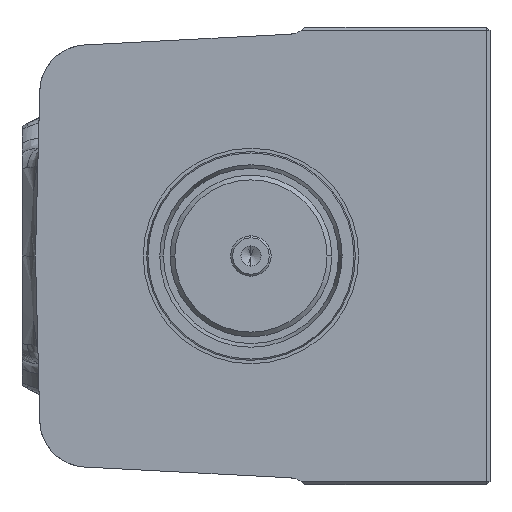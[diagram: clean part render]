
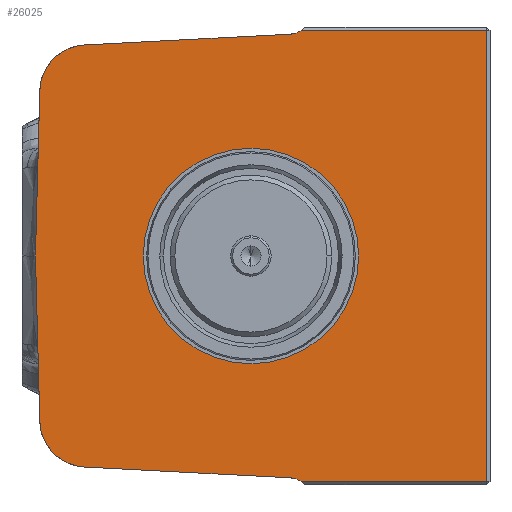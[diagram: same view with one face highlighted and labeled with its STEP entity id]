
A CAD part, left-side view. The second image highlights one B-rep face of the part: STEP entity #26025.
In plain terms, the highlighted planar face has unit normal (-1, 0, 0).
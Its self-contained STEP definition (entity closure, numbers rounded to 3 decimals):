
#375 = DIRECTION ( 'NONE',  ( -1., 0., 0. ) ) ;
#379 = VERTEX_POINT ( 'NONE', #29618 ) ;
#618 = EDGE_CURVE ( 'NONE', #5360, #24153, #23117, .T. ) ;
#737 = CARTESIAN_POINT ( 'NONE',  ( -46.6, 0., 0. ) ) ;
#1359 = ORIENTED_EDGE ( 'NONE', *, *, #618, .T. ) ;
#1399 = EDGE_CURVE ( 'NONE', #21965, #14256, #10782, .T. ) ;
#1786 = ORIENTED_EDGE ( 'NONE', *, *, #26022, .T. ) ;
#1821 = ORIENTED_EDGE ( 'NONE', *, *, #32594, .T. ) ;
#2327 = VECTOR ( 'NONE', #13819, 1000. ) ;
#2435 = ORIENTED_EDGE ( 'NONE', *, *, #31200, .F. ) ;
#3283 = ORIENTED_EDGE ( 'NONE', *, *, #6977, .F. ) ;
#3457 = CARTESIAN_POINT ( 'NONE',  ( -46.6, 24.726, -31.337 ) ) ;
#3841 = ORIENTED_EDGE ( 'NONE', *, *, #6165, .T. ) ;
#4404 = CARTESIAN_POINT ( 'NONE',  ( -46.6, 31.358, -24.53 ) ) ;
#4824 = ORIENTED_EDGE ( 'NONE', *, *, #24681, .T. ) ;
#5286 = DIRECTION ( 'NONE',  ( 0., -1., 0. ) ) ;
#5360 = VERTEX_POINT ( 'NONE', #33889 ) ;
#5865 = ORIENTED_EDGE ( 'NONE', *, *, #18347, .F. ) ;
#6165 = EDGE_CURVE ( 'NONE', #12196, #15698, #37545, .T. ) ;
#6871 = ORIENTED_EDGE ( 'NONE', *, *, #1399, .T. ) ;
#6977 = EDGE_CURVE ( 'NONE', #5360, #19635, #34382, .T. ) ;
#6983 = CARTESIAN_POINT ( 'NONE',  ( -46.6, -16., 0. ) ) ;
#7583 = CARTESIAN_POINT ( 'NONE',  ( -46.6, 24.36, -24.347 ) ) ;
#8022 = CIRCLE ( 'NONE', #8035, 3. ) ;
#8035 = AXIS2_PLACEMENT_3D ( 'NONE', #40543, #40504, #40450 ) ;
#8178 = FACE_BOUND ( 'NONE', #10976, .T. ) ;
#8839 = ORIENTED_EDGE ( 'NONE', *, *, #36442, .F. ) ;
#9759 = AXIS2_PLACEMENT_3D ( 'NONE', #29651, #29645, #29604 ) ;
#9821 = ORIENTED_EDGE ( 'NONE', *, *, #14596, .F. ) ;
#10410 = VERTEX_POINT ( 'NONE', #25925 ) ;
#10782 = LINE ( 'NONE', #14029, #2327 ) ;
#10919 = AXIS2_PLACEMENT_3D ( 'NONE', #737, #375, #5286 ) ;
#10976 = EDGE_LOOP ( 'NONE', ( #8839, #9821 ) ) ;
#11170 = VECTOR ( 'NONE', #20225, 1000. ) ;
#12196 = VERTEX_POINT ( 'NONE', #39992 ) ;
#12453 = LINE ( 'NONE', #20606, #29310 ) ;
#12606 = EDGE_CURVE ( 'NONE', #39848, #12196, #27990, .T. ) ;
#12860 = LINE ( 'NONE', #22463, #28712 ) ;
#13513 = CARTESIAN_POINT ( 'NONE',  ( -46.6, -7.444, 33.5 ) ) ;
#13819 = DIRECTION ( 'NONE',  ( 0., -0.999, -0.052 ) ) ;
#14029 = CARTESIAN_POINT ( 'NONE',  ( -46.6, 1.706, -32.544 ) ) ;
#14256 = VERTEX_POINT ( 'NONE', #24717 ) ;
#14596 = EDGE_CURVE ( 'NONE', #10410, #29204, #29934, .T. ) ;
#15698 = VERTEX_POINT ( 'NONE', #23794 ) ;
#16813 = VERTEX_POINT ( 'NONE', #13513 ) ;
#17230 = CARTESIAN_POINT ( 'NONE',  ( -46.6, 0., 0. ) ) ;
#18347 = EDGE_CURVE ( 'NONE', #21965, #27063, #30885, .T. ) ;
#18905 = EDGE_CURVE ( 'NONE', #14256, #39848, #8022, .T. ) ;
#19032 = EDGE_LOOP ( 'NONE', ( #31638, #33727, #3841, #1821, #1786, #3283, #1359, #2435, #4824, #5865, #6871 ) ) ;
#19635 = VERTEX_POINT ( 'NONE', #30705 ) ;
#20225 = DIRECTION ( 'NONE',  ( 0., -1., 0. ) ) ;
#20606 = CARTESIAN_POINT ( 'NONE',  ( -46.6, -35.5, 33.5 ) ) ;
#20980 = AXIS2_PLACEMENT_3D ( 'NONE', #26693, #26655, #26604 ) ;
#20998 = DIRECTION ( 'NONE',  ( 0., 1., 0. ) ) ;
#21180 = CARTESIAN_POINT ( 'NONE',  ( -46.6, -35.5, -33.5 ) ) ;
#21483 = AXIS2_PLACEMENT_3D ( 'NONE', #7583, #28176, #28092 ) ;
#21965 = VERTEX_POINT ( 'NONE', #3457 ) ;
#22387 = DIRECTION ( 'NONE',  ( 0., -0.026, 1. ) ) ;
#22460 = CIRCLE ( 'NONE', #10919, 16. ) ;
#22463 = CARTESIAN_POINT ( 'NONE',  ( -46.6, 31.978, 0.837 ) ) ;
#23117 = CIRCLE ( 'NONE', #20980, 7. ) ;
#23673 = VECTOR ( 'NONE', #25144, 1000. ) ;
#23794 = CARTESIAN_POINT ( 'NONE',  ( -46.6, -35., 33.5 ) ) ;
#24153 = VERTEX_POINT ( 'NONE', #31557 ) ;
#24681 = EDGE_CURVE ( 'NONE', #379, #27063, #40950, .T. ) ;
#24717 = CARTESIAN_POINT ( 'NONE',  ( -46.6, -5.85, -32.94 ) ) ;
#25091 = CARTESIAN_POINT ( 'NONE',  ( -46.6, 31.978, -0.837 ) ) ;
#25144 = DIRECTION ( 'NONE',  ( 0., -0.026, -1. ) ) ;
#25681 = DIRECTION ( 'NONE',  ( 0., -0.999, 0.052 ) ) ;
#25702 = VECTOR ( 'NONE', #25681, 1000. ) ;
#25720 = CARTESIAN_POINT ( 'NONE',  ( -46.6, 1.706, 32.544 ) ) ;
#25925 = CARTESIAN_POINT ( 'NONE',  ( -46.6, 16., 0. ) ) ;
#26022 = EDGE_CURVE ( 'NONE', #16813, #19635, #32446, .T. ) ;
#26025 = ADVANCED_FACE ( 'NONE', ( #41130, #8178 ), #29883, .T. ) ;
#26604 = DIRECTION ( 'NONE',  ( 0., 0., 1. ) ) ;
#26655 = DIRECTION ( 'NONE',  ( -1., 0., 0. ) ) ;
#26693 = CARTESIAN_POINT ( 'NONE',  ( -46.6, 24.36, 24.347 ) ) ;
#26706 = AXIS2_PLACEMENT_3D ( 'NONE', #29190, #29148, #29115 ) ;
#27063 = VERTEX_POINT ( 'NONE', #4404 ) ;
#27990 = LINE ( 'NONE', #21180, #11170 ) ;
#28092 = DIRECTION ( 'NONE',  ( 0., 0., 1. ) ) ;
#28176 = DIRECTION ( 'NONE',  ( 1., 0., 0. ) ) ;
#28712 = VECTOR ( 'NONE', #22387, 1000. ) ;
#28796 = CARTESIAN_POINT ( 'NONE',  ( -46.6, -7.444, -33.5 ) ) ;
#28898 = VECTOR ( 'NONE', #39829, 1000. ) ;
#28996 = AXIS2_PLACEMENT_3D ( 'NONE', #17230, #35474, #35435 ) ;
#29115 = DIRECTION ( 'NONE',  ( 0., 0., 1. ) ) ;
#29148 = DIRECTION ( 'NONE',  ( -1., 0., 0. ) ) ;
#29190 = CARTESIAN_POINT ( 'NONE',  ( -46.6, -35.5, -34. ) ) ;
#29204 = VERTEX_POINT ( 'NONE', #6983 ) ;
#29310 = VECTOR ( 'NONE', #20998, 1000. ) ;
#29604 = DIRECTION ( 'NONE',  ( 0., 0., 1. ) ) ;
#29618 = CARTESIAN_POINT ( 'NONE',  ( -46.6, 32., 0. ) ) ;
#29645 = DIRECTION ( 'NONE',  ( 1., 0., 0. ) ) ;
#29651 = CARTESIAN_POINT ( 'NONE',  ( -46.6, -5.693, 35.936 ) ) ;
#29883 = PLANE ( 'NONE',  #26706 ) ;
#29934 = CIRCLE ( 'NONE', #28996, 16. ) ;
#30705 = CARTESIAN_POINT ( 'NONE',  ( -46.6, -5.85, 32.94 ) ) ;
#30885 = CIRCLE ( 'NONE', #21483, 7. ) ;
#31200 = EDGE_CURVE ( 'NONE', #379, #24153, #12860, .T. ) ;
#31557 = CARTESIAN_POINT ( 'NONE',  ( -46.6, 31.358, 24.53 ) ) ;
#31638 = ORIENTED_EDGE ( 'NONE', *, *, #18905, .T. ) ;
#32446 = CIRCLE ( 'NONE', #9759, 3. ) ;
#32594 = EDGE_CURVE ( 'NONE', #15698, #16813, #12453, .T. ) ;
#33727 = ORIENTED_EDGE ( 'NONE', *, *, #12606, .T. ) ;
#33889 = CARTESIAN_POINT ( 'NONE',  ( -46.6, 24.726, 31.337 ) ) ;
#34382 = LINE ( 'NONE', #25720, #25702 ) ;
#35435 = DIRECTION ( 'NONE',  ( 0., -1., 0. ) ) ;
#35474 = DIRECTION ( 'NONE',  ( -1., 0., 0. ) ) ;
#36442 = EDGE_CURVE ( 'NONE', #29204, #10410, #22460, .T. ) ;
#37545 = LINE ( 'NONE', #40071, #28898 ) ;
#39829 = DIRECTION ( 'NONE',  ( 0., 0., 1. ) ) ;
#39848 = VERTEX_POINT ( 'NONE', #28796 ) ;
#39992 = CARTESIAN_POINT ( 'NONE',  ( -46.6, -35., -33.5 ) ) ;
#40071 = CARTESIAN_POINT ( 'NONE',  ( -46.6, -35., -34. ) ) ;
#40450 = DIRECTION ( 'NONE',  ( 0., 0., 1. ) ) ;
#40504 = DIRECTION ( 'NONE',  ( 1., 0., 0. ) ) ;
#40543 = CARTESIAN_POINT ( 'NONE',  ( -46.6, -5.693, -35.936 ) ) ;
#40950 = LINE ( 'NONE', #25091, #23673 ) ;
#41130 = FACE_OUTER_BOUND ( 'NONE', #19032, .T. ) ;
